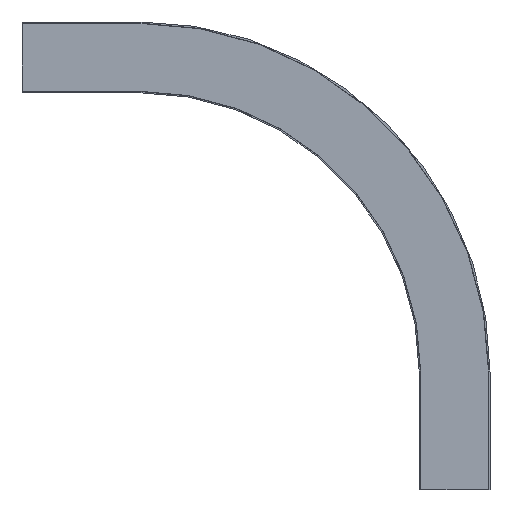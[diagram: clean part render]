
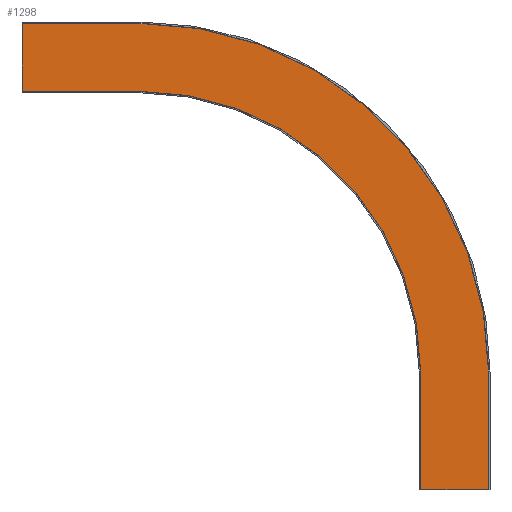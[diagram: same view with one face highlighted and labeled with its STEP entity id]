
A CAD part, front view. The second image highlights one B-rep face of the part: STEP entity #1298.
In plain terms, the highlighted planar face has unit normal (0, -1, 0).
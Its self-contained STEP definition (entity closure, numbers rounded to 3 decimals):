
#52 = DIRECTION ( 'NONE',  ( 1., 0., 0. ) ) ;
#53 = DIRECTION ( 'NONE',  ( 0., -1., 0. ) ) ;
#58 = CARTESIAN_POINT ( 'NONE',  ( -43.15, -42., 150. ) ) ;
#59 = PLANE ( 'NONE',  #1668 ) ;
#213 = CARTESIAN_POINT ( 'NONE',  ( 43.15, -42., 150. ) ) ;
#335 = CARTESIAN_POINT ( 'NONE',  ( -550., -42., 506.85 ) ) ;
#338 = DIRECTION ( 'NONE',  ( 0., 0., -1. ) ) ;
#344 = CARTESIAN_POINT ( 'NONE',  ( -43.15, -42., 0. ) ) ;
#350 = DIRECTION ( 'NONE',  ( 0., 0., -1. ) ) ;
#451 = DIRECTION ( 'NONE',  ( -1., 0., 0. ) ) ;
#470 = DIRECTION ( 'NONE',  ( 0., 0., -1. ) ) ;
#489 = CARTESIAN_POINT ( 'NONE',  ( -43.15, -42., 150. ) ) ;
#490 = CARTESIAN_POINT ( 'NONE',  ( -550., -42., 506.85 ) ) ;
#509 = CARTESIAN_POINT ( 'NONE',  ( -400., -42., 506.85 ) ) ;
#669 = CARTESIAN_POINT ( 'NONE',  ( -400., -42., 506.85 ) ) ;
#673 = CARTESIAN_POINT ( 'NONE',  ( -400., -42., 593.15 ) ) ;
#674 = DIRECTION ( 'NONE',  ( -1., 0., 0. ) ) ;
#684 = DIRECTION ( 'NONE',  ( -1., 0., 0. ) ) ;
#946 = CARTESIAN_POINT ( 'NONE',  ( 43.15, -42., 0. ) ) ;
#947 = CARTESIAN_POINT ( 'NONE',  ( -43.15, -42., 0. ) ) ;
#955 = CARTESIAN_POINT ( 'NONE',  ( 43.15, -42., 150. ) ) ;
#965 = CARTESIAN_POINT ( 'NONE',  ( -550., -42., 593.15 ) ) ;
#966 = CARTESIAN_POINT ( 'NONE',  ( -400., -42., 593.15 ) ) ;
#974 = CARTESIAN_POINT ( 'NONE',  ( -43.15, -42., 150. ) ) ;
#1071 = VERTEX_POINT ( 'NONE', #490 ) ;
#1080 = EDGE_LOOP ( 'NONE', ( #1948, #1949, #1950, #1951, #1952, #1953, #1954, #1955 ) ) ;
#1113 = VERTEX_POINT ( 'NONE', #509 ) ;
#1298 = ADVANCED_FACE ( 'NONE', ( #2530 ), #59, .T. ) ;
#1326 = EDGE_CURVE ( 'NONE', #1834, #1071, #2579, .T. ) ;
#1327 = EDGE_CURVE ( 'NONE', #1805, #1795, #2577, .T. ) ;
#1328 = EDGE_CURVE ( 'NONE', #1795, #1796, #2581, .T. ) ;
#1329 = EDGE_CURVE ( 'NONE', #1848, #1796, #2585, .T. ) ;
#1382 = EDGE_CURVE ( 'Edge18', #1805, #1835, #2690, .T. ) ;
#1385 = EDGE_CURVE ( 'NONE', #1848, #1113, #2694, .T. ) ;
#1458 = EDGE_CURVE ( 'Edge42', #1835, #1834, #3043, .T. ) ;
#1463 = EDGE_CURVE ( 'NONE', #1113, #1071, #3029, .T. ) ;
#1668 = AXIS2_PLACEMENT_3D ( 'NONE', #58, #53, #52 ) ;
#1795 = VERTEX_POINT ( 'NONE', #946 ) ;
#1796 = VERTEX_POINT ( 'NONE', #947 ) ;
#1805 = VERTEX_POINT ( 'NONE', #955 ) ;
#1834 = VERTEX_POINT ( 'NONE', #965 ) ;
#1835 = VERTEX_POINT ( 'NONE', #966 ) ;
#1848 = VERTEX_POINT ( 'NONE', #974 ) ;
#1948 = ORIENTED_EDGE ( 'NONE', *, *, #1328, .F. ) ;
#1949 = ORIENTED_EDGE ( 'NONE', *, *, #1327, .F. ) ;
#1950 = ORIENTED_EDGE ( 'NONE', *, *, #1382, .T. ) ;
#1951 = ORIENTED_EDGE ( 'NONE', *, *, #1458, .T. ) ;
#1952 = ORIENTED_EDGE ( 'NONE', *, *, #1326, .T. ) ;
#1953 = ORIENTED_EDGE ( 'NONE', *, *, #1463, .F. ) ;
#1954 = ORIENTED_EDGE ( 'NONE', *, *, #1385, .F. ) ;
#1955 = ORIENTED_EDGE ( 'NONE', *, *, #1329, .T. ) ;
#2530 = FACE_OUTER_BOUND ( 'NONE', #1080, .T. ) ;
#2577 = LINE ( 'NONE', #213, #2584 ) ;
#2579 = LINE ( 'NONE', #335, #2582 ) ;
#2581 = LINE ( 'NONE', #344, #2586 ) ;
#2582 = VECTOR ( 'NONE', #338, 1000. ) ;
#2584 = VECTOR ( 'NONE', #350, 1000. ) ;
#2585 = LINE ( 'NONE', #489, #2588 ) ;
#2586 = VECTOR ( 'NONE', #451, 1000. ) ;
#2588 = VECTOR ( 'NONE', #470, 1000. ) ;
#2690 = CIRCLE ( 'NONE', #3094, 443.15 ) ;
#2694 = CIRCLE ( 'NONE', #3097, 356.85 ) ;
#3015 = VECTOR ( 'NONE', #684, 1000. ) ;
#3026 = VECTOR ( 'NONE', #674, 1000. ) ;
#3029 = LINE ( 'NONE', #669, #3015 ) ;
#3043 = LINE ( 'NONE', #673, #3026 ) ;
#3068 = DIRECTION ( 'NONE',  ( 0., 0., -1. ) ) ;
#3069 = DIRECTION ( 'NONE',  ( 0., -1., 0. ) ) ;
#3070 = CARTESIAN_POINT ( 'NONE',  ( -400., -42., 150. ) ) ;
#3074 = CARTESIAN_POINT ( 'NONE',  ( -400., -42., 150. ) ) ;
#3076 = DIRECTION ( 'NONE',  ( 0., 0., -1. ) ) ;
#3077 = DIRECTION ( 'NONE',  ( 0., -1., 0. ) ) ;
#3094 = AXIS2_PLACEMENT_3D ( 'NONE', #3074, #3077, #3076 ) ;
#3097 = AXIS2_PLACEMENT_3D ( 'NONE', #3070, #3069, #3068 ) ;
